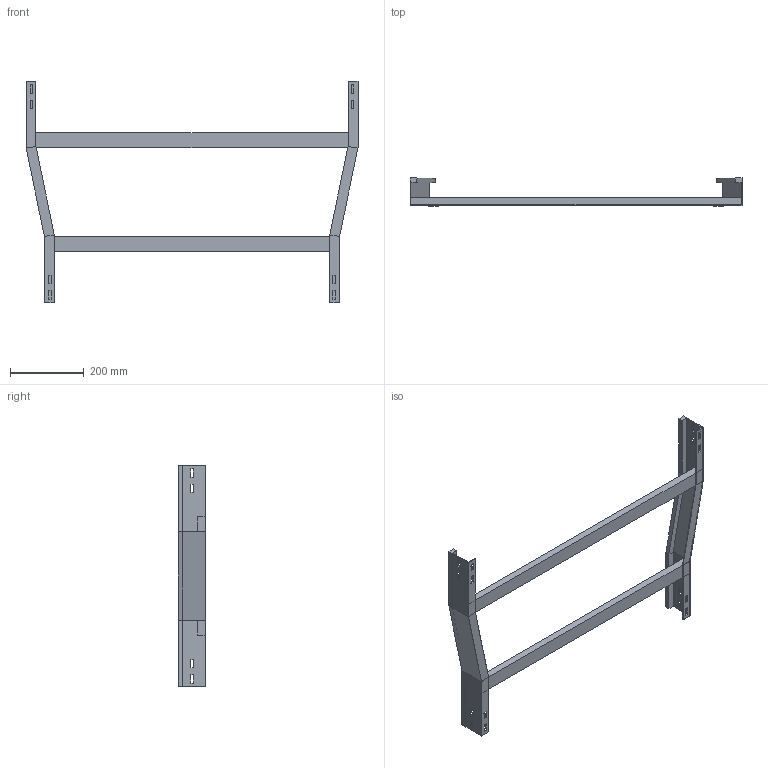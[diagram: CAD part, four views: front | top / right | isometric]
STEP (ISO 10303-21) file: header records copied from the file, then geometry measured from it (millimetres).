
FILE_DESCRIPTION (( 'STEP AP214' ), '1' );
FILE_NAME ('B2X20B8C900XX.step', '2025-09-02T17:15:37', ( '' ), ( '' ), 'SwSTEP 2.0', 'SolidWorks 2023', '' );
FILE_SCHEMA (( 'AUTOMOTIVE_DESIGN' ));
Length unit declared in the file: millimetre
Products named in the file (4): TRAVERSINO_900; B2X20B8C900XX; SPONDA RID. CENTRALE 900-800_H75; TRAVERSINO_800
Assembly tree (3 placements, depth 2):
  B2X20B8C900XX
    SPONDA RID. CENTRALE 900-800_H75
    TRAVERSINO_800
    TRAVERSINO_900
Bounding box: 900 x 75 x 600 mm (x, y, z)
Volume: 1840032 mm3; surface area: 492100.2 mm2
Topology: 4 solids, 4 shells, 128 faces, 328 edges, 208 vertices
Faces by surface type: plane 128
Entity records: 3950 total; most frequent: CARTESIAN_POINT 670, ORIENTED_EDGE 656, DIRECTION 596, VECTOR 328, LINE 328, EDGE_CURVE 328, VERTEX_POINT 208, EDGE_LOOP 160
